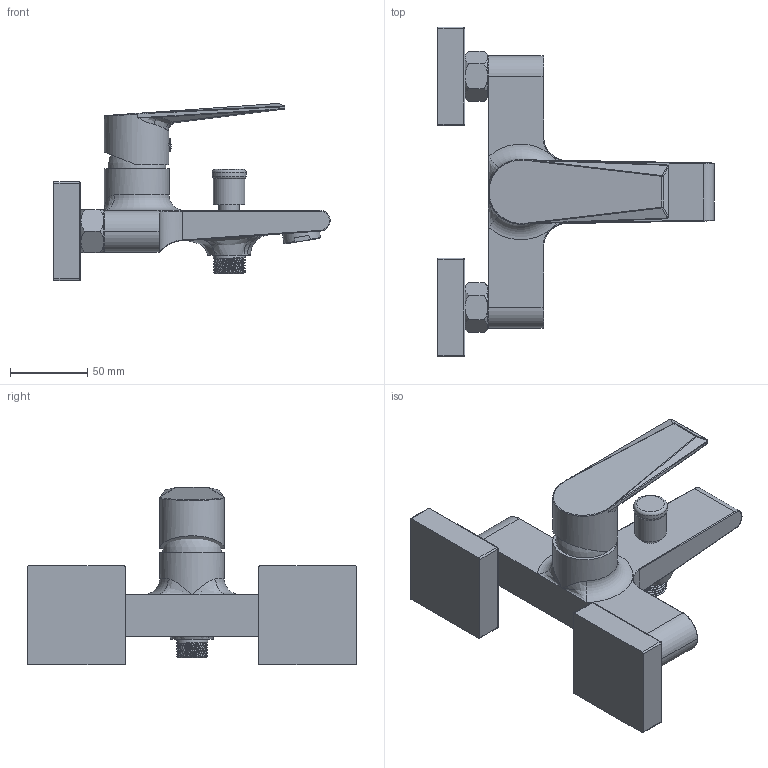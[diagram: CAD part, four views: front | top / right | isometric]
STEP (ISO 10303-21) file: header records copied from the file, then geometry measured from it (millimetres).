
FILE_DESCRIPTION(/* description */ (''),/* implementation_level */ '2;1');
FILE_NAME(/* name */ '三联.stp',/* time_stamp */ '2024-03-02T22:15:47+08:00',/* author */ (''),/* organization */ (''),/* preprocessor_version */ 'ST-DEVELOPER v16',/* originating_system */ 'SIEMENS PLM Software NX 10.0',/* authorisation */ '');
FILE_SCHEMA (('CONFIG_CONTROL_DESIGN'));
Products named in the file (1): 三联
Bounding box: 179.2 x 213.96 x 114.87 mm (x, y, z)
Volume: 533206 mm3; surface area: 99215.4 mm2
Topology: 12 solids, 12 shells, 2438 faces, 7277 edges, 4770 vertices
Faces by surface type: plane 1481, cylinder 813, cone 62, bspline 54, torus 16, sphere 12
Full cylindrical faces by diameter (mm): 8.9 x1, 9 x2, 10.3 x2, 13.5 x1, 14 x1, 14.5 x2, 15.6 x2, 16 x2, 20.5 x3, 20.6 x5, 21 x2, 22 x1, 23 x2, 24.5 x2, 42 x2
Entity records: 123027 total; most frequent: CARTESIAN_POINT 58779, ORIENTED_EDGE 14384, DIRECTION 10863, EDGE_CURVE 7192, LINE 4995, VECTOR 4995, VERTEX_POINT 4744, EDGE_LOOP 3506
